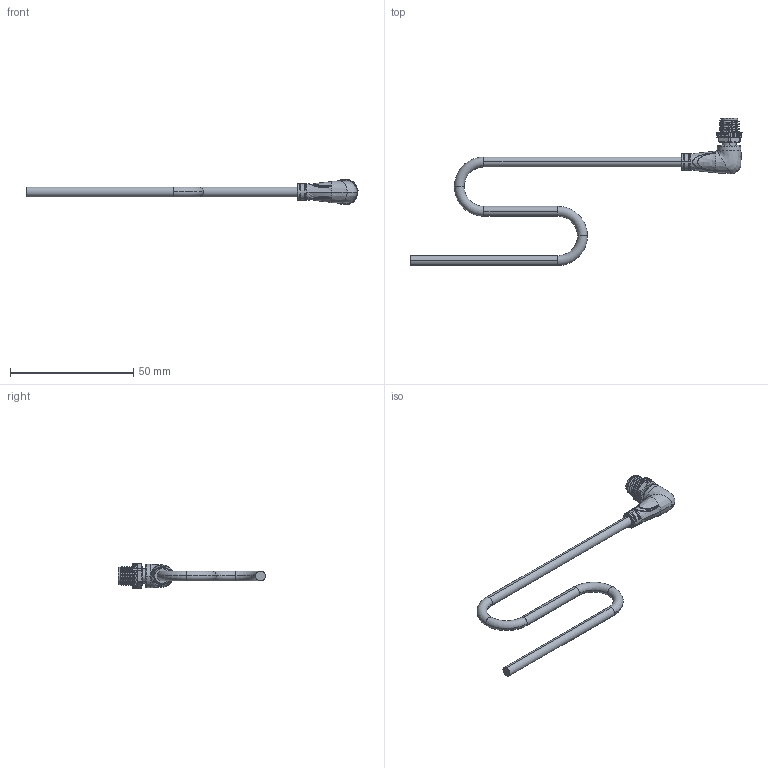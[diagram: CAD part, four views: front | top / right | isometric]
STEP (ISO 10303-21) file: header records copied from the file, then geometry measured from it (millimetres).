
FILE_DESCRIPTION (( 'STEP AP214' ), '1' );
FILE_NAME ('M8俔芛4P鼠傷.STEP', '2024-12-19T01:27:53', ( 'Windows User' ), ( 'P R C' ), 'SwSTEP 2.0', 'SolidWorks 2023', '' );
FILE_SCHEMA (( 'AUTOMOTIVE_DESIGN' ));
Length unit declared in the file: millimetre
Products named in the file (6): SD1705298-M8公端插针-A0; SD1705296-M8-4P公端插座-A0; M8-90°包胶-A1_4; M8弯头4P公端; SD1100823-M8滚花螺栓（外螺纹对边9）-A0; 导线_φ4.0
Assembly tree (8 placements, depth 2):
  M8弯头4P公端
    M8-90°包胶-A1_4
    SD1100823-M8滚花螺栓（外螺纹对边9）-A0
    SD1705298-M8公端插针-A0  x4
    导线_φ4.0
    SD1705296-M8-4P公端插座-A0
Bounding box: 134.72 x 59.65 x 10.4 mm (x, y, z)
Volume: 4821.5 mm3; surface area: 5781.8 mm2
Topology: 16 solids, 16 shells, 1416 faces, 3603 edges, 2229 vertices
Faces by surface type: plane 563, cylinder 370, cone 228, bspline 166, torus 65, sphere 24
Entity records: 37185 total; most frequent: CARTESIAN_POINT 18464, ORIENTED_EDGE 4324, DIRECTION 3264, EDGE_CURVE 2162, VERTEX_POINT 1381, AXIS2_PLACEMENT_3D 1217, EDGE_LOOP 857, VECTOR 830
